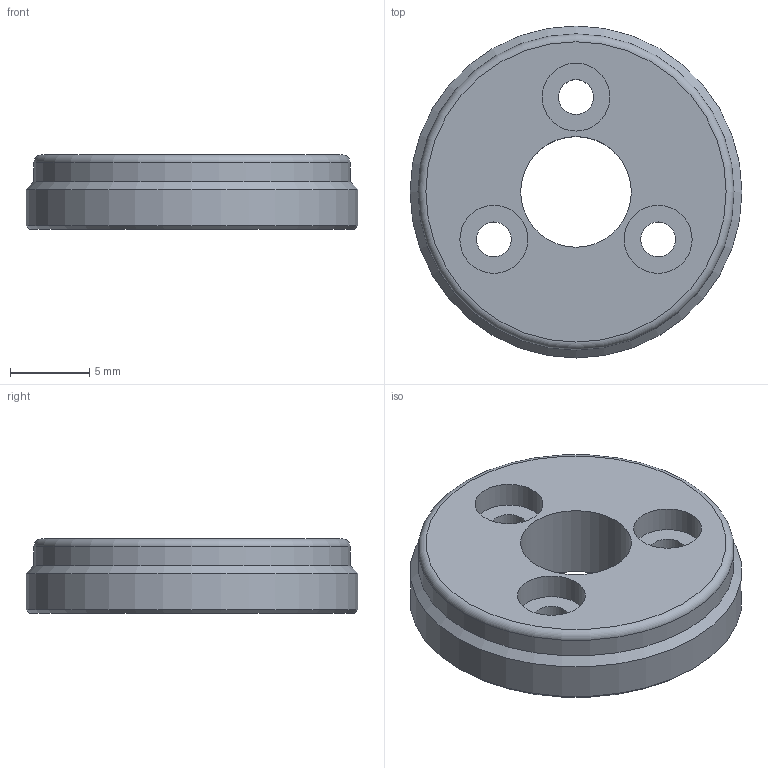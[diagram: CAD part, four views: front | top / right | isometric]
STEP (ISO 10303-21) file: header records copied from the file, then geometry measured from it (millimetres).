
FILE_DESCRIPTION(/* description */ (''),/* implementation_level */ '2;1');
FILE_NAME(/* name */ '22-7_flange_d_416.4652.07.stp',/* time_stamp */ '2016-09-19T15:01:20+02:00',/* author */ ('DR. FRITZ FAULHABER GmbH & Co. KG'),/* organization */ ('DR. FRITZ FAULHABER GmbH & Co. KG'),/* preprocessor_version */ 'ST-DEVELOPER v16',/* originating_system */ 'SIEMENS PLM Software NX 10.0',/* authorisation */ '');
FILE_SCHEMA (('AUTOMOTIVE_DESIGN { 1 0 10303 214 3 1 1 1 }'));
Length unit declared in the file: millimetre
Products named in the file (1): F0200011865_E
Bounding box: 21 x 21 x 4.7 mm (x, y, z)
Volume: 1274.5 mm3; surface area: 1089.1 mm2
Topology: 1 solids, 1 shells, 17 faces, 34 edges, 22 vertices
Faces by surface type: cylinder 9, plane 5, cone 2, torus 1
Full cylindrical faces by diameter (mm): 2.2 x3, 4.3 x3, 7 x1, 20 x1, 21 x1
Entity records: 414 total; most frequent: DIRECTION 76, CARTESIAN_POINT 58, FACE_BOUND 40, EDGE_LOOP 40, ORIENTED_EDGE 40, AXIS2_PLACEMENT_3D 38, VERTEX_POINT 20, EDGE_CURVE 20
